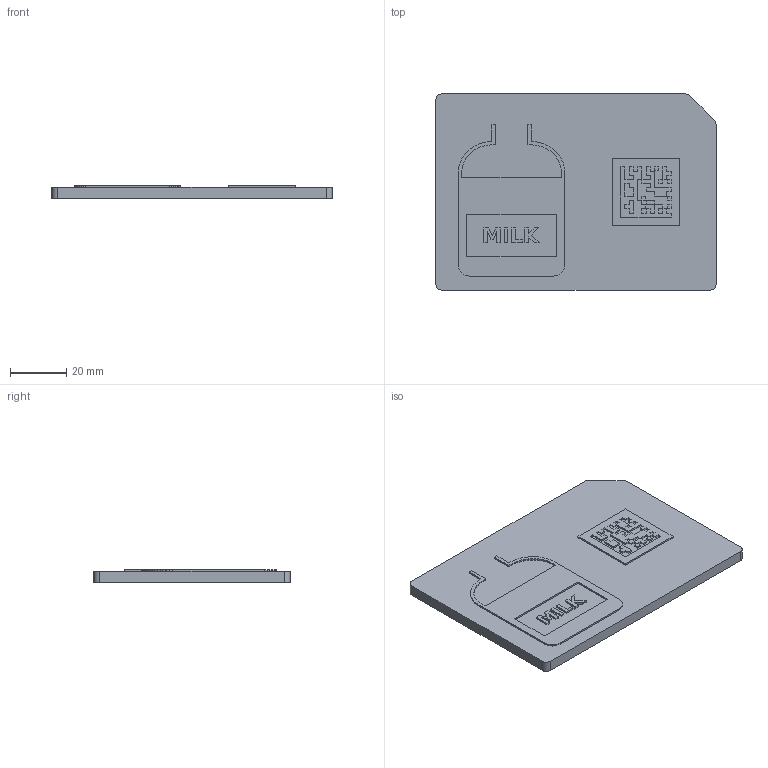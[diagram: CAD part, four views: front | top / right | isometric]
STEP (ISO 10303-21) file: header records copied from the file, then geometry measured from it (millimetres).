
FILE_DESCRIPTION(('Open CASCADE Model'),'2;1');
FILE_NAME('Open CASCADE Shape Model','2026-10-14T18:10:01',('Author'),( 'Open CASCADE'),'Open CASCADE STEP processor 7.9','Open CASCADE 7.9' ,'Unknown');
FILE_SCHEMA(('AUTOMOTIVE_DESIGN { 1 0 10303 214 1 1 1 1 }'));
Length unit declared in the file: millimetre
Products named in the file (3): SN-4822; SN-4822_base_dark; SN-4822_features_red
Assembly tree (2 placements, depth 2):
  SN-4822
    SN-4822_base_dark
    SN-4822_features_red
Bounding box: 100 x 70 x 4.6 mm (x, y, z)
Volume: 28605.7 mm3; surface area: 19654.8 mm2
Topology: 9 solids, 9 shells, 543 faces, 1518 edges, 1012 vertices
Faces by surface type: plane 538, cylinder 5
Entity records: 36467 total; most frequent: CARTESIAN_POINT 6620, DIRECTION 5158, LINE 4038, VECTOR 4038, ORIENTED_EDGE 3036, PCURVE 3036, DEFINITIONAL_REPRESENTATION 3036, EDGE_CURVE 1518
